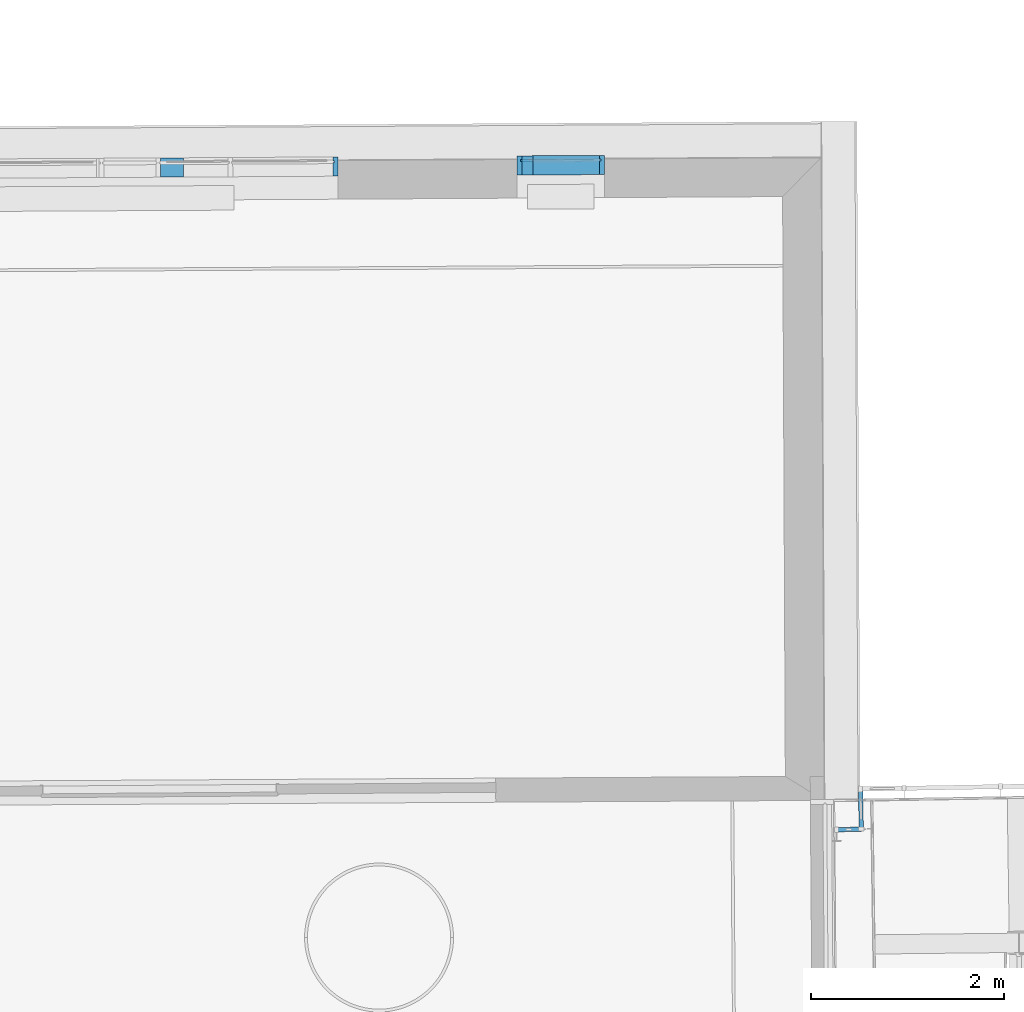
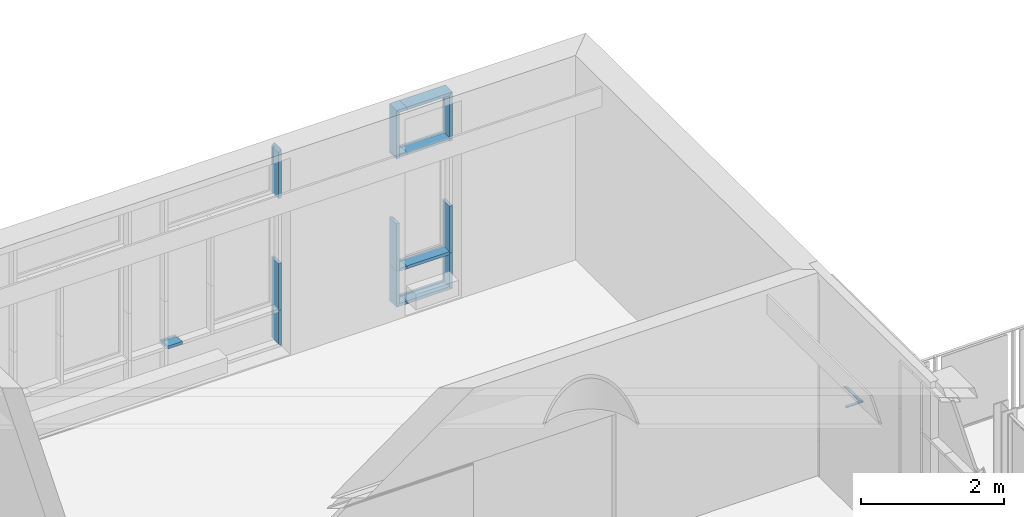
# One storey, part 135 of 158: 22 building element parts, 3 elements without a shape of their own.
"""IFC2X3 building model written with IfcOpenShell, lengths in metres."""

from ifc_helpers import new_model, entity, si_unit, converted_unit, derived_unit, money_unit, direction, frame, origin_with_axes, place, context, subcontext, project, spatial, faceted_brep, material, type_object, element, aggregate, save


model = new_model("IFC2X3")

# Units and contexts
model_context = context("Model", 3, precision=1e-05, world=origin_with_axes(), true_north=direction((0.0, 1.0)))
body_context = subcontext(model_context, "Body", "Model", "MODEL_VIEW")
ifc_project = project(units=[si_unit("LENGTHUNIT", "METRE"), si_unit("AREAUNIT", "SQUARE_METRE"), si_unit("VOLUMEUNIT", "CUBIC_METRE"), converted_unit("PLANEANGLEUNIT", "DEGREE", entity("IfcPlaneAngleMeasure", 0.0174532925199), si_unit("PLANEANGLEUNIT", "RADIAN"), dimensions=[0, 0, 0, 0, 0, 0, 0]), money_unit("EUR"), converted_unit("TIMEUNIT", "Year", entity("IfcTimeMeasure", 31556926.0), si_unit("TIMEUNIT", "SECOND"), dimensions=[0, 0, 1, 0, 0, 0, 0]), si_unit("MASSUNIT", "GRAM", prefix="KILO"), si_unit("THERMODYNAMICTEMPERATUREUNIT", "DEGREE_CELSIUS"), si_unit("LUMINOUSINTENSITYUNIT", "LUMEN"), si_unit("ENERGYUNIT", "JOULE", prefix="MEGA"), derived_unit("THERMALCONDUCTANCEUNIT", [(si_unit("POWERUNIT", "WATT"), 1), (si_unit("LENGTHUNIT", "METRE"), -1), (si_unit("THERMODYNAMICTEMPERATUREUNIT", "KELVIN"), -1)]), derived_unit("SPECIFICHEATCAPACITYUNIT", [(si_unit("ENERGYUNIT", "JOULE"), 1), (si_unit("MASSUNIT", "GRAM", prefix="KILO"), -1), (si_unit("THERMODYNAMICTEMPERATUREUNIT", "KELVIN"), -1)]), derived_unit("MASSDENSITYUNIT", [(si_unit("MASSUNIT", "GRAM", prefix="KILO"), 1), (si_unit("VOLUMEUNIT", "CUBIC_METRE"), -1)])], contexts=[model_context])

# Site, building, storey
site_placement = place(None, origin_with_axes())
site = spatial("IfcSite", under=ifc_project, at=site_placement, Name="Gelände", CompositionType="ELEMENT")
building_placement = place(site_placement, origin_with_axes())
building = spatial("IfcBuilding", under=site, at=building_placement, Name="Gebäude", CompositionType="ELEMENT")
storey_placement = place(building_placement, origin_with_axes())
storey = spatial("IfcBuildingStorey", under=building, at=storey_placement, Name="ERDGESCHOSS", CompositionType="ELEMENT", Elevation=0.0)

# Proxy, building element parts
building_element_proxy_type_1 = type_object("IfcBuildingElementProxyType", Name="Fassadentyp", PredefinedType="NOTDEFINED")
proxy_1_placement = place(storey_placement, frame((-22.8016333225, 53.9701805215, 1.34043904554), z_axis=(0.0, 0.0, 1.0), x_axis=(1.0, 0.0, 0.0)))
proxy_1 = element("IfcBuildingElementProxy", 1, at=proxy_1_placement, inside=storey, type_object=building_element_proxy_type_1, Name="Fassade-002")
ifc_material_1 = material(Name="53_Metall, Aluminium")
building_element_part_1_placement = place(proxy_1_placement, origin_with_axes())
building_element_part_1 = element("IfcBuildingElementPart", 2, at=building_element_part_1_placement, material=ifc_material_1, Name="53_Metall, Aluminium", context=body_context, shape_type="Brep", body=[
    faceted_brep([(2.12300932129, 0.00238059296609, 1.42000001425), (2.10800957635, 0.00229311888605, 1.42000001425), (2.1088260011, -0.13770450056, 1.42000001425), (2.1588251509, -0.137412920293, 1.42000001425), (2.15765882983, 0.0625836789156, 1.42000001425), (2.10765968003, 0.0622920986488, 1.42000001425), (2.10789294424, 0.0222927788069, 1.42000001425), (2.12289268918, 0.022380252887, 1.42000001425), (2.12300932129, 0.00238059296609, 0.620000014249), (2.10800957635, 0.00229311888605, 0.620000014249), (2.1088260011, -0.13770450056, 0.620000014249), (2.1588251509, -0.137412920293, 0.620000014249), (2.15765882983, 0.0625836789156, 0.620000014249), (2.10765968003, 0.0622920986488, 0.620000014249), (2.10789294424, 0.0222927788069, 0.620000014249), (2.12289268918, 0.022380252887, 0.620000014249)], [[[0, 1, 2, 3, 4, 5, 6, 7]], [[0, 8, 9, 1]], [[9, 10, 2, 1]], [[10, 11, 3, 2]], [[11, 12, 4, 3]], [[12, 13, 5, 4]], [[6, 5, 13, 14]], [[14, 15, 7, 6]], [[7, 15, 8, 0]], [[8, 15, 14, 13, 12, 11, 10, 9]]]),
])
building_element_part_2_placement = place(proxy_1_placement, origin_with_axes())
building_element_part_2 = element("IfcBuildingElementPart", 3, at=building_element_part_2_placement, material=ifc_material_1, Name="53_Metall, Aluminium", context=body_context, shape_type="Brep", body=[
    faceted_brep([(2.12300932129, 0.00238059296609, 3.31499992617), (2.10800957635, 0.00229311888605, 3.29999992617), (2.1088260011, -0.13770450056, 3.29999992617), (2.1588251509, -0.137412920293, 3.34999992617), (2.15765882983, 0.0625836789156, 3.34999992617), (2.10765968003, 0.0622920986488, 3.29999992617), (2.10789294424, 0.0222927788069, 3.29999992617), (2.12289268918, 0.022380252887, 3.31499992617), (2.12300932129, 0.00238059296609, 2.52000001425), (2.10800957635, 0.00229311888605, 2.52000001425), (2.1088260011, -0.13770450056, 2.52000001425), (2.1588251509, -0.137412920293, 2.52000001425), (2.15765882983, 0.0625836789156, 2.52000001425), (2.10765968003, 0.0622920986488, 2.52000001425), (2.10789294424, 0.0222927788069, 2.52000001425), (2.12289268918, 0.022380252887, 2.52000001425)], [[[0, 1, 2, 3, 4, 5, 6, 7]], [[0, 8, 9, 1]], [[9, 10, 2, 1]], [[10, 11, 3, 2]], [[11, 12, 4, 3]], [[12, 13, 5, 4]], [[6, 5, 13, 14]], [[14, 15, 7, 6]], [[7, 15, 8, 0]], [[8, 15, 14, 13, 12, 11, 10, 9]]]),
])
building_element_part_3_placement = place(proxy_1_placement, origin_with_axes())
building_element_part_3 = element("IfcBuildingElementPart", 4, at=building_element_part_3_placement, material=ifc_material_1, Name="53_Metall, Aluminium", context=body_context, shape_type="Brep", body=[
    faceted_brep([(2.12300932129, 0.00238059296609, 0.620000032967), (2.10800957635, 0.00229311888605, 0.620000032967), (2.1088260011, -0.13770450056, 0.620000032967), (2.1588251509, -0.137412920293, 0.620000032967), (2.15765882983, 0.0625836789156, 0.620000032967), (2.10765968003, 0.0622920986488, 0.620000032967), (2.10789294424, 0.0222927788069, 0.620000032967), (2.12289268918, 0.022380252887, 0.620000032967), (2.12300932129, 0.00238059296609, 0.0349999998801), (2.10800957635, 0.00229311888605, 0.0499999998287), (2.1088260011, -0.13770450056, 0.0499999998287), (2.1588251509, -0.137412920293, 0.0), (2.15765882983, 0.0625836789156, 0.0), (2.10765968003, 0.0622920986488, 0.0499999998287), (2.10789294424, 0.0222927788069, 0.0499999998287), (2.12289268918, 0.022380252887, 0.0349999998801)], [[[0, 1, 2, 3, 4, 5, 6, 7]], [[0, 8, 9, 1]], [[9, 10, 2, 1]], [[2, 10, 11, 3]], [[3, 11, 12, 4]], [[4, 12, 13, 5]], [[6, 5, 13, 14]], [[14, 15, 7, 6]], [[7, 15, 8, 0]], [[8, 15, 14, 13, 12, 11, 10, 9]]]),
])
building_element_part_4_placement = place(proxy_1_placement, origin_with_axes())
building_element_part_4 = element("IfcBuildingElementPart", 5, at=building_element_part_4_placement, material=ifc_material_1, Name="53_Metall, Aluminium", context=body_context, shape_type="Brep", body=[
    faceted_brep([(0.319188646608, -0.00813875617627, 0.610000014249), (0.319188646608, -0.00813875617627, 0.595000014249), (0.320005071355, -0.148136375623, 0.595000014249), (0.320005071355, -0.148136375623, 0.645000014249), (0.319188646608, -0.00813875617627, 0.645000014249), (0.319188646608, -0.00813875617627, 0.630000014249), (0.319072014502, 0.0118609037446, 0.630000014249), (0.319072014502, 0.0118609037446, 0.645000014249), (0.318838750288, 0.0518602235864, 0.645000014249), (0.318838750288, 0.0518602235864, 0.595000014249), (0.319072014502, 0.0118609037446, 0.595000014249), (0.319072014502, 0.0118609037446, 0.610000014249), (0.554972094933, -0.00676373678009, 0.610000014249), (0.554972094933, -0.00676373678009, 0.595000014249), (0.55578851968, -0.146761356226, 0.595000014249), (0.55578851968, -0.146761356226, 0.645000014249), (0.554972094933, -0.00676373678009, 0.645000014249), (0.554972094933, -0.00676373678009, 0.630000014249), (0.554855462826, 0.0132359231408, 0.630000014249), (0.554855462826, 0.0132359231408, 0.645000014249), (0.554622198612, 0.0532352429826, 0.645000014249), (0.554622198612, 0.0532352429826, 0.595000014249), (0.554855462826, 0.0132359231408, 0.595000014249), (0.554855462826, 0.0132359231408, 0.610000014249)], [[[0, 1, 2, 3, 4, 5, 6, 7, 8, 9, 10, 11]], [[1, 0, 12, 13]], [[1, 13, 14, 2]], [[3, 2, 14, 15]], [[4, 3, 15, 16]], [[4, 16, 17, 5]], [[5, 17, 18, 6]], [[7, 6, 18, 19]], [[19, 20, 8, 7]], [[9, 8, 20, 21]], [[22, 10, 9, 21]], [[11, 10, 22, 23]], [[0, 11, 23, 12]], [[23, 22, 21, 20, 19, 18, 17, 16, 15, 14, 13, 12]]]),
])
aggregate(proxy_1, [building_element_part_1, building_element_part_2, building_element_part_3, building_element_part_4])

proxy_2_placement = place(storey_placement, frame((-18.429809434, 53.9956757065, 1.34043902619), z_axis=(0.0, 0.0, 1.0), x_axis=(1.0, 0.0, 0.0)))
proxy_2 = element("IfcBuildingElementProxy", 6, at=proxy_2_placement, inside=storey, type_object=building_element_proxy_type_1, Name="Fassade-002")
building_element_part_5_placement = place(proxy_2_placement, origin_with_axes())
building_element_part_5 = element("IfcBuildingElementPart", 7, at=building_element_part_5_placement, material=ifc_material_1, Name="53_Metall, Aluminium", context=body_context, shape_type="Brep", body=[
    faceted_brep([(-0.322528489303, -0.0118810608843, 2.55877854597), (-0.32264512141, 0.00811859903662, 2.55877854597), (-0.307645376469, 0.00820607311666, 2.55877854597), (-0.307878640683, 0.0482053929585, 2.55877854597), (-0.357877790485, 0.0479138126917, 2.55877854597), (-0.356711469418, -0.152082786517, 2.55877854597), (-0.306712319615, -0.151791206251, 2.55877854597), (-0.307528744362, -0.0117935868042, 2.55877854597), (-0.322528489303, -0.0118810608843, 2.5200000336), (-0.32264512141, 0.00811859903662, 2.5200000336), (-0.307645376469, 0.00820607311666, 2.5200000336), (-0.307878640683, 0.0482053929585, 2.5200000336), (-0.357877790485, 0.0479138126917, 2.5200000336), (-0.356711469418, -0.152082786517, 2.5200000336), (-0.306712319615, -0.151791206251, 2.5200000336), (-0.307528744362, -0.0117935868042, 2.5200000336)], [[[0, 1, 2, 3, 4, 5, 6, 7]], [[1, 0, 8, 9]], [[10, 2, 1, 9]], [[2, 10, 11, 3]], [[12, 4, 3, 11]], [[13, 5, 4, 12]], [[14, 6, 5, 13]], [[15, 7, 6, 14]], [[0, 7, 15, 8]], [[8, 15, 14, 13, 12, 11, 10, 9]]]),
])
building_element_part_6_placement = place(proxy_2_placement, origin_with_axes())
building_element_part_6 = element("IfcBuildingElementPart", 8, at=building_element_part_6_placement, material=ifc_material_1, Name="53_Metall, Aluminium", context=body_context, shape_type="Brep", body=[
    faceted_brep([(-0.307528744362, -0.0117935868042, 2.54877854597), (-0.307528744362, -0.0117935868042, 2.53377854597), (-0.306712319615, -0.151791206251, 2.53377854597), (-0.306712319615, -0.151791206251, 2.58377854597), (-0.307528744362, -0.0117935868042, 2.58377854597), (-0.307528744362, -0.0117935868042, 2.56877854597), (-0.307645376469, 0.00820607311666, 2.56877854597), (-0.307645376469, 0.00820607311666, 2.58377854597), (-0.307878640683, 0.0482053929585, 2.58377854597), (-0.307878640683, 0.0482053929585, 2.53377854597), (-0.307645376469, 0.00820607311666, 2.53377854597), (-0.307645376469, 0.00820607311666, 2.54877854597), (-0.191853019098, -0.0111190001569, 2.54877854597), (-0.191853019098, -0.0111190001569, 2.53377854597), (-0.191036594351, -0.151116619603, 2.53377854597), (-0.191036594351, -0.151116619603, 2.58377854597), (-0.191853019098, -0.0111190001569, 2.58377854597), (-0.191853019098, -0.0111190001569, 2.56877854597), (-0.191969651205, 0.008880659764, 2.56877854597), (-0.191969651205, 0.008880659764, 2.58377854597), (-0.192202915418, 0.0488799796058, 2.58377854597), (-0.192202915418, 0.0488799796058, 2.53377854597), (-0.191969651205, 0.008880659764, 2.53377854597), (-0.191969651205, 0.008880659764, 2.54877854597)], [[[0, 1, 2, 3, 4, 5, 6, 7, 8, 9, 10, 11]], [[1, 0, 12, 13]], [[1, 13, 14, 2]], [[3, 2, 14, 15]], [[4, 3, 15, 16]], [[4, 16, 17, 5]], [[5, 17, 18, 6]], [[7, 6, 18, 19]], [[19, 20, 8, 7]], [[9, 8, 20, 21]], [[22, 10, 9, 21]], [[11, 10, 22, 23]], [[0, 11, 23, 12]], [[23, 22, 21, 20, 19, 18, 17, 16, 15, 14, 13, 12]]]),
])
building_element_part_7_placement = place(proxy_2_placement, origin_with_axes())
building_element_part_7 = element("IfcBuildingElementPart", 9, at=building_element_part_7_placement, material=ifc_material_1, Name="53_Metall, Aluminium", context=body_context, shape_type="Brep", body=[
    faceted_brep([(-0.322528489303, -0.0118810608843, 3.31499995), (-0.307528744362, -0.0117935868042, 3.29999995), (-0.306712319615, -0.151791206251, 3.29999995), (-0.356711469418, -0.152082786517, 3.34999995), (-0.357877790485, 0.0479138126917, 3.34999995), (-0.307878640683, 0.0482053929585, 3.29999995), (-0.307645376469, 0.00820607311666, 3.29999995), (-0.32264512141, 0.00811859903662, 3.31499995), (-0.191853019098, -0.0111190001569, 3.31499995), (-0.191853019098, -0.0111190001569, 3.29999995), (-0.191036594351, -0.151116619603, 3.29999995), (-0.191036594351, -0.151116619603, 3.34999995), (-0.192202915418, 0.0488799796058, 3.34999995), (-0.192202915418, 0.0488799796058, 3.29999995), (-0.191969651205, 0.008880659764, 3.29999995), (-0.191969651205, 0.008880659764, 3.31499995)], [[[0, 1, 2, 3, 4, 5, 6, 7]], [[0, 8, 9, 1]], [[9, 10, 2, 1]], [[10, 11, 3, 2]], [[11, 12, 4, 3]], [[12, 13, 5, 4]], [[6, 5, 13, 14]], [[14, 15, 7, 6]], [[7, 15, 8, 0]], [[8, 15, 14, 13, 12, 11, 10, 9]]]),
])
building_element_part_8_placement = place(proxy_2_placement, origin_with_axes())
building_element_part_8 = element("IfcBuildingElementPart", 10, at=building_element_part_8_placement, material=ifc_material_1, Name="53_Metall, Aluminium", context=body_context, shape_type="Brep", body=[
    faceted_brep([(-0.191853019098, -0.0111190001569, 0.0349999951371), (-0.191969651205, 0.008880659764, 0.0349999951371), (-0.191969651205, 0.008880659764, 0.0499999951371), (-0.192202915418, 0.0488799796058, 0.0499999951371), (-0.192202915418, 0.0488799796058, -4.86286344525e-09), (-0.191036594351, -0.151116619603, -4.86286344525e-09), (-0.191036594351, -0.151116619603, 0.0499999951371), (-0.191853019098, -0.0111190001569, 0.0499999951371), (0.514556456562, -0.00699942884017, 0.0349999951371), (0.514439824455, 0.0130002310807, 0.0349999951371), (0.499440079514, 0.0129127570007, 0.0499999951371), (0.499206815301, 0.0529120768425, 0.0499999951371), (0.549205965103, 0.0532036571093, -4.86286344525e-09), (0.55037228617, -0.1467929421, -4.86286344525e-09), (0.500373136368, -0.147084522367, 0.0499999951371), (0.499556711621, -0.00708690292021, 0.0499999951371)], [[[0, 1, 2, 3, 4, 5, 6, 7]], [[1, 0, 8, 9]], [[10, 2, 1, 9]], [[2, 10, 11, 3]], [[4, 3, 11, 12]], [[5, 4, 12, 13]], [[6, 5, 13, 14]], [[15, 7, 6, 14]], [[0, 7, 15, 8]], [[8, 15, 14, 13, 12, 11, 10, 9]]]),
])
building_element_part_9_placement = place(proxy_2_placement, origin_with_axes())
building_element_part_9 = element("IfcBuildingElementPart", 11, at=building_element_part_9_placement, material=ifc_material_1, Name="53_Metall, Aluminium", context=body_context, shape_type="Brep", body=[
    faceted_brep([(-0.191853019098, -0.0111190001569, 3.31499995), (-0.191853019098, -0.0111190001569, 3.29999995), (-0.191036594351, -0.151116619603, 3.29999995), (-0.191036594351, -0.151116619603, 3.34999995), (-0.192202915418, 0.0488799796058, 3.34999995), (-0.192202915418, 0.0488799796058, 3.29999995), (-0.191969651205, 0.008880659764, 3.29999995), (-0.191969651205, 0.008880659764, 3.31499995), (0.514556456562, -0.00699942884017, 3.31499995), (0.499556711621, -0.00708690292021, 3.29999995), (0.500373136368, -0.147084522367, 3.29999995), (0.55037228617, -0.1467929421, 3.34999995), (0.549205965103, 0.0532036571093, 3.34999995), (0.499206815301, 0.0529120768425, 3.29999995), (0.499440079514, 0.0129127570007, 3.29999995), (0.514439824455, 0.0130002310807, 3.31499995)], [[[0, 1, 2, 3, 4, 5, 6, 7]], [[0, 8, 9, 1]], [[9, 10, 2, 1]], [[2, 10, 11, 3]], [[3, 11, 12, 4]], [[4, 12, 13, 5]], [[6, 5, 13, 14]], [[14, 15, 7, 6]], [[7, 15, 8, 0]], [[8, 15, 14, 13, 12, 11, 10, 9]]]),
])
building_element_part_10_placement = place(proxy_2_placement, origin_with_axes())
building_element_part_10 = element("IfcBuildingElementPart", 12, at=building_element_part_10_placement, material=ifc_material_1, Name="53_Metall, Aluminium", context=body_context, shape_type="Brep", body=[
    faceted_brep([(-0.322528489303, -0.0118810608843, 0.0349999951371), (-0.32264512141, 0.00811859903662, 0.0349999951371), (-0.307645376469, 0.00820607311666, 0.0499999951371), (-0.307878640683, 0.0482053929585, 0.0499999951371), (-0.357877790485, 0.0479138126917, -4.86286344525e-09), (-0.356711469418, -0.152082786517, -4.86286344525e-09), (-0.306712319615, -0.151791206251, 0.0499999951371), (-0.307528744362, -0.0117935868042, 0.0499999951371), (-0.191853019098, -0.0111190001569, 0.0349999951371), (-0.191969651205, 0.008880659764, 0.0349999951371), (-0.191969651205, 0.008880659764, 0.0499999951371), (-0.192202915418, 0.0488799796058, 0.0499999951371), (-0.192202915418, 0.0488799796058, -4.86286344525e-09), (-0.191036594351, -0.151116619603, -4.86286344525e-09), (-0.191036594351, -0.151116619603, 0.0499999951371), (-0.191853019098, -0.0111190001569, 0.0499999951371)], [[[0, 1, 2, 3, 4, 5, 6, 7]], [[1, 0, 8, 9]], [[10, 2, 1, 9]], [[2, 10, 11, 3]], [[12, 4, 3, 11]], [[13, 5, 4, 12]], [[14, 6, 5, 13]], [[15, 7, 6, 14]], [[0, 7, 15, 8]], [[8, 15, 14, 13, 12, 11, 10, 9]]]),
])
building_element_part_11_placement = place(proxy_2_placement, origin_with_axes())
building_element_part_11 = element("IfcBuildingElementPart", 13, at=building_element_part_11_placement, material=ifc_material_1, Name="53_Metall, Aluminium", context=body_context, shape_type="Brep", body=[
    faceted_brep([(-0.191853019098, -0.0111190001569, 0.610000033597), (-0.191853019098, -0.0111190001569, 0.595000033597), (-0.191036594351, -0.151116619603, 0.595000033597), (-0.191036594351, -0.151116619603, 0.645000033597), (-0.191853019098, -0.0111190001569, 0.645000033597), (-0.191853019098, -0.0111190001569, 0.630000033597), (-0.191969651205, 0.008880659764, 0.630000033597), (-0.191969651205, 0.008880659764, 0.645000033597), (-0.192202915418, 0.0488799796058, 0.645000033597), (-0.192202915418, 0.0488799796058, 0.595000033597), (-0.191969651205, 0.008880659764, 0.595000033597), (-0.191969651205, 0.008880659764, 0.610000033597), (0.499556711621, -0.00708690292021, 0.610000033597), (0.499556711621, -0.00708690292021, 0.595000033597), (0.500373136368, -0.147084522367, 0.595000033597), (0.500373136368, -0.147084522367, 0.645000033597), (0.499556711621, -0.00708690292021, 0.645000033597), (0.499556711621, -0.00708690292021, 0.630000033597), (0.499440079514, 0.0129127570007, 0.630000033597), (0.499440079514, 0.0129127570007, 0.645000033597), (0.499206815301, 0.0529120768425, 0.645000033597), (0.499206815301, 0.0529120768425, 0.595000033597), (0.499440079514, 0.0129127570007, 0.595000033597), (0.499440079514, 0.0129127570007, 0.610000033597)], [[[0, 1, 2, 3, 4, 5, 6, 7, 8, 9, 10, 11]], [[1, 0, 12, 13]], [[1, 13, 14, 2]], [[2, 14, 15, 3]], [[4, 3, 15, 16]], [[4, 16, 17, 5]], [[5, 17, 18, 6]], [[7, 6, 18, 19]], [[19, 20, 8, 7]], [[8, 20, 21, 9]], [[22, 10, 9, 21]], [[11, 10, 22, 23]], [[0, 11, 23, 12]], [[23, 22, 21, 20, 19, 18, 17, 16, 15, 14, 13, 12]]]),
])
building_element_part_12_placement = place(proxy_2_placement, origin_with_axes())
building_element_part_12 = element("IfcBuildingElementPart", 14, at=building_element_part_12_placement, material=ifc_material_1, Name="53_Metall, Aluminium", context=body_context, shape_type="Brep", body=[
    faceted_brep([(-0.322528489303, -0.0118810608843, 3.31499995), (-0.32264512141, 0.00811859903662, 3.31499995), (-0.307645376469, 0.00820607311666, 3.29999995), (-0.307878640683, 0.0482053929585, 3.29999995), (-0.357877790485, 0.0479138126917, 3.34999995), (-0.356711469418, -0.152082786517, 3.34999995), (-0.306712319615, -0.151791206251, 3.29999995), (-0.307528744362, -0.0117935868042, 3.29999995), (-0.322528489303, -0.0118810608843, 2.55877854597), (-0.32264512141, 0.00811859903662, 2.55877854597), (-0.307645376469, 0.00820607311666, 2.55877854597), (-0.307878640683, 0.0482053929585, 2.55877854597), (-0.357877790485, 0.0479138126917, 2.55877854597), (-0.356711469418, -0.152082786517, 2.55877854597), (-0.306712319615, -0.151791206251, 2.55877854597), (-0.307528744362, -0.0117935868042, 2.55877854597)], [[[0, 1, 2, 3, 4, 5, 6, 7]], [[1, 0, 8, 9]], [[10, 2, 1, 9]], [[2, 10, 11, 3]], [[12, 4, 3, 11]], [[13, 5, 4, 12]], [[14, 6, 5, 13]], [[15, 7, 6, 14]], [[0, 7, 15, 8]], [[8, 15, 14, 13, 12, 11, 10, 9]]]),
])
building_element_part_13_placement = place(proxy_2_placement, origin_with_axes())
building_element_part_13 = element("IfcBuildingElementPart", 15, at=building_element_part_13_placement, material=ifc_material_1, Name="53_Metall, Aluminium", context=body_context, shape_type="Brep", body=[
    faceted_brep([(-0.322528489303, -0.0118810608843, 1.4200000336), (-0.32264512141, 0.00811859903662, 1.4200000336), (-0.307645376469, 0.00820607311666, 1.4200000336), (-0.307878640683, 0.0482053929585, 1.4200000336), (-0.357877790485, 0.0479138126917, 1.4200000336), (-0.356711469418, -0.152082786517, 1.4200000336), (-0.306712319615, -0.151791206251, 1.4200000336), (-0.307528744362, -0.0117935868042, 1.4200000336), (-0.322528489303, -0.0118810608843, 0.620000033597), (-0.32264512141, 0.00811859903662, 0.620000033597), (-0.307645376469, 0.00820607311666, 0.620000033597), (-0.307878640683, 0.0482053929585, 0.620000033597), (-0.357877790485, 0.0479138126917, 0.620000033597), (-0.356711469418, -0.152082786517, 0.620000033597), (-0.306712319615, -0.151791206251, 0.620000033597), (-0.307528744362, -0.0117935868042, 0.620000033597)], [[[0, 1, 2, 3, 4, 5, 6, 7]], [[1, 0, 8, 9]], [[10, 2, 1, 9]], [[2, 10, 11, 3]], [[12, 4, 3, 11]], [[13, 5, 4, 12]], [[14, 6, 5, 13]], [[15, 7, 6, 14]], [[0, 7, 15, 8]], [[8, 15, 14, 13, 12, 11, 10, 9]]]),
])
building_element_part_14_placement = place(proxy_2_placement, origin_with_axes())
building_element_part_14 = element("IfcBuildingElementPart", 16, at=building_element_part_14_placement, material=ifc_material_1, Name="53_Metall, Aluminium", context=body_context, shape_type="Brep", body=[
    faceted_brep([(-0.322528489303, -0.0118810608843, 0.620000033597), (-0.32264512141, 0.00811859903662, 0.620000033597), (-0.307645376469, 0.00820607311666, 0.620000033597), (-0.307878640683, 0.0482053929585, 0.620000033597), (-0.357877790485, 0.0479138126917, 0.620000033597), (-0.356711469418, -0.152082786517, 0.620000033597), (-0.306712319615, -0.151791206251, 0.620000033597), (-0.307528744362, -0.0117935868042, 0.620000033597), (-0.322528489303, -0.0118810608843, 0.0349999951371), (-0.32264512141, 0.00811859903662, 0.0349999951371), (-0.307645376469, 0.00820607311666, 0.0499999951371), (-0.307878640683, 0.0482053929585, 0.0499999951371), (-0.357877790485, 0.0479138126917, -4.86286300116e-09), (-0.356711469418, -0.152082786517, -4.86286499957e-09), (-0.306712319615, -0.151791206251, 0.0499999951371), (-0.307528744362, -0.0117935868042, 0.0499999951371)], [[[0, 1, 2, 3, 4, 5, 6, 7]], [[1, 0, 8, 9]], [[10, 2, 1, 9]], [[2, 10, 11, 3]], [[4, 3, 11, 12]], [[5, 4, 12, 13]], [[6, 5, 13, 14]], [[15, 7, 6, 14]], [[0, 7, 15, 8]], [[8, 15, 14, 13, 12, 11, 10, 9]]]),
])
building_element_part_15_placement = place(proxy_2_placement, origin_with_axes())
building_element_part_15 = element("IfcBuildingElementPart", 17, at=building_element_part_15_placement, material=ifc_material_1, Name="53_Metall, Aluminium", context=body_context, shape_type="Brep", body=[
    faceted_brep([(0.514556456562, -0.00699942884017, 1.4200000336), (0.499556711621, -0.00708690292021, 1.4200000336), (0.500373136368, -0.147084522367, 1.4200000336), (0.55037228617, -0.1467929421, 1.4200000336), (0.549205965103, 0.0532036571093, 1.4200000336), (0.499206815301, 0.0529120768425, 1.4200000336), (0.499440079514, 0.0129127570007, 1.4200000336), (0.514439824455, 0.0130002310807, 1.4200000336), (0.514556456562, -0.00699942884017, 0.620000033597), (0.499556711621, -0.00708690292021, 0.620000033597), (0.500373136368, -0.147084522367, 0.620000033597), (0.55037228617, -0.1467929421, 0.620000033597), (0.549205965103, 0.0532036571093, 0.620000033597), (0.499206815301, 0.0529120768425, 0.620000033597), (0.499440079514, 0.0129127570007, 0.620000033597), (0.514439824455, 0.0130002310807, 0.620000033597)], [[[0, 1, 2, 3, 4, 5, 6, 7]], [[0, 8, 9, 1]], [[9, 10, 2, 1]], [[10, 11, 3, 2]], [[11, 12, 4, 3]], [[12, 13, 5, 4]], [[6, 5, 13, 14]], [[14, 15, 7, 6]], [[7, 15, 8, 0]], [[8, 15, 14, 13, 12, 11, 10, 9]]]),
])
building_element_part_16_placement = place(proxy_2_placement, origin_with_axes())
building_element_part_16 = element("IfcBuildingElementPart", 18, at=building_element_part_16_placement, material=ifc_material_1, Name="53_Metall, Aluminium", context=body_context, shape_type="Brep", body=[
    faceted_brep([(0.514556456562, -0.00699942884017, 0.620000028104), (0.499556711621, -0.00708690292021, 0.620000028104), (0.500373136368, -0.147084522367, 0.620000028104), (0.55037228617, -0.1467929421, 0.620000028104), (0.549205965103, 0.0532036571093, 0.620000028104), (0.499206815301, 0.0529120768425, 0.620000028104), (0.499440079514, 0.0129127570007, 0.620000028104), (0.514439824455, 0.0130002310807, 0.620000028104), (0.514556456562, -0.00699942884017, 0.0349999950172), (0.499556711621, -0.00708690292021, 0.0499999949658), (0.500373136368, -0.147084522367, 0.0499999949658), (0.55037228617, -0.1467929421, -4.86286344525e-09), (0.549205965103, 0.0532036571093, -4.86286344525e-09), (0.499206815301, 0.0529120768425, 0.0499999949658), (0.499440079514, 0.0129127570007, 0.0499999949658), (0.514439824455, 0.0130002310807, 0.0349999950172)], [[[0, 1, 2, 3, 4, 5, 6, 7]], [[0, 8, 9, 1]], [[9, 10, 2, 1]], [[2, 10, 11, 3]], [[3, 11, 12, 4]], [[4, 12, 13, 5]], [[6, 5, 13, 14]], [[14, 15, 7, 6]], [[7, 15, 8, 0]], [[8, 15, 14, 13, 12, 11, 10, 9]]]),
])
building_element_part_17_placement = place(proxy_2_placement, origin_with_axes())
building_element_part_17 = element("IfcBuildingElementPart", 19, at=building_element_part_17_placement, material=ifc_material_1, Name="53_Metall, Aluminium", context=body_context, shape_type="Brep", body=[
    faceted_brep([(0.514556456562, -0.00699942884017, 3.31499995), (0.499556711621, -0.00708690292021, 3.29999995), (0.500373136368, -0.147084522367, 3.29999995), (0.55037228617, -0.1467929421, 3.34999995), (0.549205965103, 0.0532036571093, 3.34999995), (0.499206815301, 0.0529120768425, 3.29999995), (0.499440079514, 0.0129127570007, 3.29999995), (0.514439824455, 0.0130002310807, 3.31499995), (0.514556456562, -0.00699942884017, 2.55877854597), (0.499556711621, -0.00708690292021, 2.55877854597), (0.500373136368, -0.147084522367, 2.55877854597), (0.55037228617, -0.1467929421, 2.55877854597), (0.549205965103, 0.0532036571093, 2.55877854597), (0.499206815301, 0.0529120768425, 2.55877854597), (0.499440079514, 0.0129127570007, 2.55877854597), (0.514439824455, 0.0130002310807, 2.55877854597)], [[[0, 1, 2, 3, 4, 5, 6, 7]], [[0, 8, 9, 1]], [[9, 10, 2, 1]], [[10, 11, 3, 2]], [[11, 12, 4, 3]], [[12, 13, 5, 4]], [[6, 5, 13, 14]], [[14, 15, 7, 6]], [[7, 15, 8, 0]], [[8, 15, 14, 13, 12, 11, 10, 9]]]),
])
building_element_part_18_placement = place(proxy_2_placement, origin_with_axes())
building_element_part_18 = element("IfcBuildingElementPart", 20, at=building_element_part_18_placement, material=ifc_material_1, Name="53_Metall, Aluminium", context=body_context, shape_type="Brep", body=[
    faceted_brep([(-0.307528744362, -0.0117935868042, 0.610000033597), (-0.307528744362, -0.0117935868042, 0.595000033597), (-0.306712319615, -0.151791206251, 0.595000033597), (-0.306712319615, -0.151791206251, 0.645000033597), (-0.307528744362, -0.0117935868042, 0.645000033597), (-0.307528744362, -0.0117935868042, 0.630000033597), (-0.307645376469, 0.00820607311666, 0.630000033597), (-0.307645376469, 0.00820607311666, 0.645000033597), (-0.307878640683, 0.0482053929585, 0.645000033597), (-0.307878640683, 0.0482053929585, 0.595000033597), (-0.307645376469, 0.00820607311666, 0.595000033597), (-0.307645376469, 0.00820607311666, 0.610000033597), (-0.191853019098, -0.0111190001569, 0.610000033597), (-0.191853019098, -0.0111190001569, 0.595000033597), (-0.191036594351, -0.151116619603, 0.595000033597), (-0.191036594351, -0.151116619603, 0.645000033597), (-0.191853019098, -0.0111190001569, 0.645000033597), (-0.191853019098, -0.0111190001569, 0.630000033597), (-0.191969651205, 0.008880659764, 0.630000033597), (-0.191969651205, 0.008880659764, 0.645000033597), (-0.192202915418, 0.0488799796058, 0.645000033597), (-0.192202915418, 0.0488799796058, 0.595000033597), (-0.191969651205, 0.008880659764, 0.595000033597), (-0.191969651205, 0.008880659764, 0.610000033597)], [[[0, 1, 2, 3, 4, 5, 6, 7, 8, 9, 10, 11]], [[1, 0, 12, 13]], [[1, 13, 14, 2]], [[3, 2, 14, 15]], [[4, 3, 15, 16]], [[4, 16, 17, 5]], [[5, 17, 18, 6]], [[7, 6, 18, 19]], [[19, 20, 8, 7]], [[9, 8, 20, 21]], [[22, 10, 9, 21]], [[11, 10, 22, 23]], [[0, 11, 23, 12]], [[23, 22, 21, 20, 19, 18, 17, 16, 15, 14, 13, 12]]]),
])
building_element_part_19_placement = place(proxy_2_placement, origin_with_axes())
building_element_part_19 = element("IfcBuildingElementPart", 21, at=building_element_part_19_placement, material=ifc_material_1, Name="53_Metall, Aluminium", context=body_context, shape_type="Brep", body=[
    faceted_brep([(-0.191853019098, -0.0111190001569, 2.54877854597), (-0.191853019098, -0.0111190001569, 2.53377854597), (-0.191036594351, -0.151116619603, 2.53377854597), (-0.191036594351, -0.151116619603, 2.58377854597), (-0.191853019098, -0.0111190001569, 2.58377854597), (-0.191853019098, -0.0111190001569, 2.56877854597), (-0.191969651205, 0.008880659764, 2.56877854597), (-0.191969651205, 0.008880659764, 2.58377854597), (-0.192202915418, 0.0488799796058, 2.58377854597), (-0.192202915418, 0.0488799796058, 2.53377854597), (-0.191969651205, 0.008880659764, 2.53377854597), (-0.191969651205, 0.008880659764, 2.54877854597), (0.499556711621, -0.00708690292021, 2.54877854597), (0.499556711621, -0.00708690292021, 2.53377854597), (0.500373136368, -0.147084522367, 2.53377854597), (0.500373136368, -0.147084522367, 2.58377854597), (0.499556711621, -0.00708690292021, 2.58377854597), (0.499556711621, -0.00708690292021, 2.56877854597), (0.499440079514, 0.0129127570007, 2.56877854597), (0.499440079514, 0.0129127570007, 2.58377854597), (0.499206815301, 0.0529120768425, 2.58377854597), (0.499206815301, 0.0529120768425, 2.53377854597), (0.499440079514, 0.0129127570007, 2.53377854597), (0.499440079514, 0.0129127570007, 2.54877854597)], [[[0, 1, 2, 3, 4, 5, 6, 7, 8, 9, 10, 11]], [[1, 0, 12, 13]], [[1, 13, 14, 2]], [[2, 14, 15, 3]], [[4, 3, 15, 16]], [[4, 16, 17, 5]], [[5, 17, 18, 6]], [[7, 6, 18, 19]], [[19, 20, 8, 7]], [[8, 20, 21, 9]], [[22, 10, 9, 21]], [[11, 10, 22, 23]], [[0, 11, 23, 12]], [[23, 22, 21, 20, 19, 18, 17, 16, 15, 14, 13, 12]]]),
])
building_element_part_20_placement = place(proxy_2_placement, origin_with_axes())
building_element_part_20 = element("IfcBuildingElementPart", 22, at=building_element_part_20_placement, material=ifc_material_1, Name="53_Metall, Aluminium", context=body_context, shape_type="Brep", body=[
    faceted_brep([(0.514556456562, -0.00699942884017, 2.55877854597), (0.499556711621, -0.00708690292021, 2.55877854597), (0.500373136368, -0.147084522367, 2.55877854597), (0.55037228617, -0.1467929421, 2.55877854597), (0.549205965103, 0.0532036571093, 2.55877854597), (0.499206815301, 0.0529120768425, 2.55877854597), (0.499440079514, 0.0129127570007, 2.55877854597), (0.514439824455, 0.0130002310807, 2.55877854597), (0.514556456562, -0.00699942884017, 2.5200000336), (0.499556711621, -0.00708690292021, 2.5200000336), (0.500373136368, -0.147084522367, 2.5200000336), (0.55037228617, -0.1467929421, 2.5200000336), (0.549205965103, 0.0532036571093, 2.5200000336), (0.499206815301, 0.0529120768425, 2.5200000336), (0.499440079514, 0.0129127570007, 2.5200000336), (0.514439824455, 0.0130002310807, 2.5200000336)], [[[0, 1, 2, 3, 4, 5, 6, 7]], [[0, 8, 9, 1]], [[9, 10, 2, 1]], [[10, 11, 3, 2]], [[11, 12, 4, 3]], [[12, 13, 5, 4]], [[6, 5, 13, 14]], [[14, 15, 7, 6]], [[7, 15, 8, 0]], [[8, 15, 14, 13, 12, 11, 10, 9]]]),
])
aggregate(proxy_2, [building_element_part_5, building_element_part_6, building_element_part_7, building_element_part_8, building_element_part_9, building_element_part_10, building_element_part_11, building_element_part_12, building_element_part_13, building_element_part_14, building_element_part_15, building_element_part_16, building_element_part_17, building_element_part_18, building_element_part_19, building_element_part_20])

building_element_proxy_type_2 = type_object("IfcBuildingElementProxyType", Name="Geländerart", PredefinedType="NOTDEFINED")
proxy_3_placement = place(storey_placement, frame((-12.121386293, 39.1724071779, -2.51797066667), z_axis=(0.0, 0.0, 1.0), x_axis=(1.0, 0.0, 0.0)))
proxy_3 = element("IfcBuildingElementProxy", 23, at=proxy_3_placement, inside=storey, type_object=building_element_proxy_type_2, Name="Geländer-001")
ifc_material_2 = material(Name="56_Metall, Stahl verzinkt")
building_element_part_21_placement = place(proxy_3_placement, origin_with_axes())
building_element_part_21 = element("IfcBuildingElementPart", 24, at=building_element_part_21_placement, material=ifc_material_2, Name="56_Metall, Stahl verzinkt", context=body_context, shape_type="Brep", body=[
    faceted_brep([(-3.12629795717, 8.32939740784, 5.126869), (-3.12629795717, 8.32939740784, 5.111869), (-3.11924268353, 7.91210036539, 5.111869), (-3.11924268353, 7.91210036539, 5.126869), (-3.08054083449, 8.28499638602, 5.126869), (-3.08054083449, 8.28499638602, 5.111869), (-3.07349751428, 7.86840635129, 5.111869), (-3.07349751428, 7.86840635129, 5.126869)], [[[0, 1, 2, 3]], [[0, 4, 5, 1]], [[1, 5, 6, 2]], [[3, 2, 6, 7]], [[4, 0, 3, 7]], [[5, 4, 7, 6]]]),
])
building_element_part_22_placement = place(proxy_3_placement, origin_with_axes())
building_element_part_22 = element("IfcBuildingElementPart", 25, at=building_element_part_22_placement, material=ifc_material_2, Name="56_Metall, Stahl verzinkt", context=body_context, shape_type="Brep", body=[
    faceted_brep([(-3.11924268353, 7.91210036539, 5.126869), (-3.11924268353, 7.91210036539, 5.111869), (-3.35236730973, 7.90534869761, 5.111869), (-3.35236730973, 7.90534869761, 5.126869), (-3.07349751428, 7.86840635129, 5.126869), (-3.07349751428, 7.86840635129, 5.111869), (-3.35106458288, 7.8603675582, 5.111869), (-3.35106458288, 7.8603675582, 5.126869)], [[[0, 1, 2, 3]], [[0, 4, 5, 1]], [[1, 5, 6, 2]], [[3, 2, 6, 7]], [[4, 0, 3, 7]], [[5, 4, 7, 6]]]),
])
aggregate(proxy_3, [building_element_part_21, building_element_part_22])

save(model, "model.ifc")
